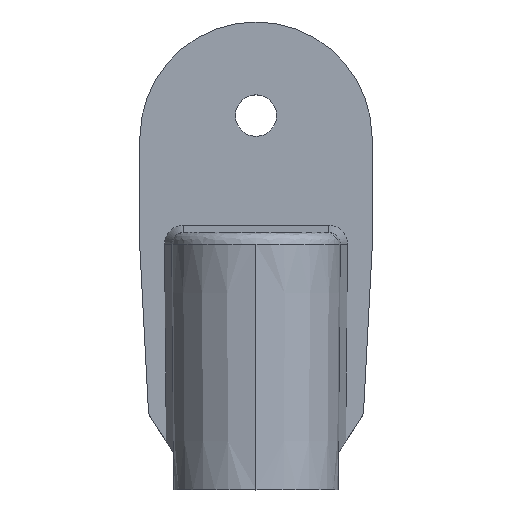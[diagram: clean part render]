
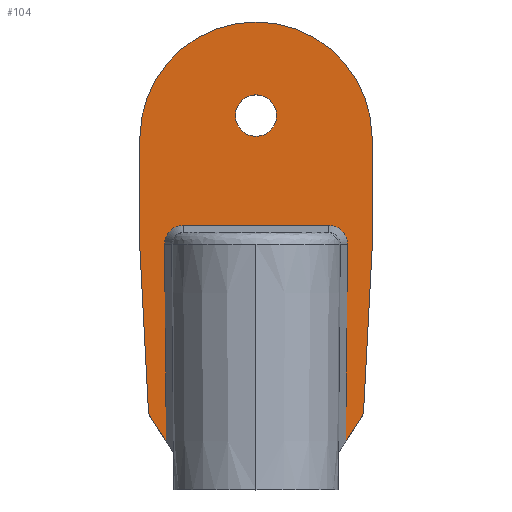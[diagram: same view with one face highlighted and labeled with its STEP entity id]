
A CAD part, top view. The second image highlights one B-rep face of the part: STEP entity #104.
In plain terms, the highlighted planar face has unit normal (0, 0, 1).
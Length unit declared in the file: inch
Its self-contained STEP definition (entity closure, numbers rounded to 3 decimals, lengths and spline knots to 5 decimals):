
#3 = ORIENTED_EDGE ( 'NONE', *, *, #971, .T. ) ;
#5 = CARTESIAN_POINT ( 'NONE',  ( -0.3739, -0.80699, -0.1 ) ) ;
#11 = ORIENTED_EDGE ( 'NONE', *, *, #450, .T. ) ;
#26 = DIRECTION ( 'NONE',  ( 0.052, 0.999, 0. ) ) ;
#34 = ORIENTED_EDGE ( 'NONE', *, *, #147, .T. ) ;
#51 = ORIENTED_EDGE ( 'NONE', *, *, #366, .T. ) ;
#58 = CARTESIAN_POINT ( 'NONE',  ( -0.35068, 0.11975, -0.1 ) ) ;
#66 = CARTESIAN_POINT ( 'NONE',  ( 0., 0.6, -0.1 ) ) ;
#87 = B_SPLINE_CURVE_WITH_KNOTS ( 'NONE', 3,
 ( #990, #739, #420, #500 ),
 .UNSPECIFIED., .F., .F.,
 ( 4, 4 ),
 ( 0., 0.0032 ),
 .UNSPECIFIED. ) ;
#90 = CARTESIAN_POINT ( 'NONE',  ( -0.506, 1.01075, -0.1 ) ) ;
#99 = VERTEX_POINT ( 'NONE', #377 ) ;
#104 = ADVANCED_FACE ( 'NONE', ( #201, #820 ), #412, .T. ) ;
#126 = VECTOR ( 'NONE', #907, 39.37008 ) ;
#129 = ORIENTED_EDGE ( 'NONE', *, *, #513, .T. ) ;
#130 = VERTEX_POINT ( 'NONE', #652 ) ;
#132 = EDGE_CURVE ( 'NONE', #291, #99, #364, .T. ) ;
#144 = CARTESIAN_POINT ( 'NONE',  ( -0.33636, 0.12647, -0.1 ) ) ;
#147 = EDGE_CURVE ( 'NONE', #468, #276, #87, .T. ) ;
#148 = VECTOR ( 'NONE', #328, 39.37008 ) ;
#152 = DIRECTION ( 'NONE',  ( 1., 0., 0. ) ) ;
#158 = CARTESIAN_POINT ( 'NONE',  ( 0.39075, 0.0493, -0.1 ) ) ;
#167 = DIRECTION ( 'NONE',  ( 0., -1., 0. ) ) ;
#168 = VECTOR ( 'NONE', #451, 39.37008 ) ;
#178 = CARTESIAN_POINT ( 'NONE',  ( 0., 0.50354, -0.1 ) ) ;
#180 = ORIENTED_EDGE ( 'NONE', *, *, #910, .T. ) ;
#184 = DIRECTION ( 'NONE',  ( 0.545, 0.839, 0. ) ) ;
#187 = CIRCLE ( 'NONE', #904, 0.0885 ) ;
#195 = CARTESIAN_POINT ( 'NONE',  ( 0.5, 0.1, -0.1 ) ) ;
#201 = FACE_BOUND ( 'NONE', #271, .T. ) ;
#208 = AXIS2_PLACEMENT_3D ( 'NONE', #178, #751, #256 ) ;
#209 = CIRCLE ( 'NONE', #414, 0.0885 ) ;
#217 = CARTESIAN_POINT ( 'NONE',  ( -0.39075, 0.0493, -0.1 ) ) ;
#221 = CARTESIAN_POINT ( 'NONE',  ( -0.32084, 0.13015, -0.1 ) ) ;
#230 = CARTESIAN_POINT ( 'NONE',  ( 0.5, 0.1, -0.1 ) ) ;
#232 = VECTOR ( 'NONE', #411, 39.37008 ) ;
#250 = ORIENTED_EDGE ( 'NONE', *, *, #892, .T. ) ;
#255 = LINE ( 'NONE', #814, #232 ) ;
#256 = DIRECTION ( 'NONE',  ( -1., 0., 0. ) ) ;
#271 = EDGE_LOOP ( 'NONE', ( #51, #129 ) ) ;
#274 = CARTESIAN_POINT ( 'NONE',  ( -0.49644, 0.50787, -0.1 ) ) ;
#276 = VERTEX_POINT ( 'NONE', #158 ) ;
#277 = VERTEX_POINT ( 'NONE', #1052 ) ;
#286 = ORIENTED_EDGE ( 'NONE', *, *, #132, .T. ) ;
#287 = ORIENTED_EDGE ( 'NONE', *, *, #631, .F. ) ;
#291 = VERTEX_POINT ( 'NONE', #567 ) ;
#296 = CARTESIAN_POINT ( 'NONE',  ( -0.39051, 0.05992, -0.1 ) ) ;
#299 = CARTESIAN_POINT ( 'NONE',  ( -0.31022, 0.13049, -0.1 ) ) ;
#301 = ORIENTED_EDGE ( 'NONE', *, *, #1061, .T. ) ;
#304 = CARTESIAN_POINT ( 'NONE',  ( 0.38341, -0.79234, -0.1 ) ) ;
#307 = DIRECTION ( 'NONE',  ( 0., 0., -1. ) ) ;
#328 = DIRECTION ( 'NONE',  ( 0.545, -0.839, 0. ) ) ;
#340 = CARTESIAN_POINT ( 'NONE',  ( 0.38685, -0.39811, -0.1 ) ) ;
#342 = EDGE_CURVE ( 'NONE', #478, #99, #255, .T. ) ;
#364 = LINE ( 'NONE', #5, #148 ) ;
#366 = EDGE_CURVE ( 'NONE', #489, #130, #209, .T. ) ;
#377 = CARTESIAN_POINT ( 'NONE',  ( -0.38341, -0.79234, -0.1 ) ) ;
#380 = LINE ( 'NONE', #195, #168 ) ;
#382 = CARTESIAN_POINT ( 'NONE',  ( -0.38696, 0.07548, -0.1 ) ) ;
#388 = CARTESIAN_POINT ( 'NONE',  ( -0.5, 0.1, -0.1 ) ) ;
#405 = VECTOR ( 'NONE', #963, 39.37008 ) ;
#411 = DIRECTION ( 'NONE',  ( 0.009, -1., 0. ) ) ;
#412 = PLANE ( 'NONE',  #698 ) ;
#414 = AXIS2_PLACEMENT_3D ( 'NONE', #801, #307, #881 ) ;
#420 = CARTESIAN_POINT ( 'NONE',  ( 0.39221, 0.09254, -0.1 ) ) ;
#422 = CARTESIAN_POINT ( 'NONE',  ( -0.49644, 0.50787, -0.1 ) ) ;
#424 = VERTEX_POINT ( 'NONE', #230 ) ;
#448 = VECTOR ( 'NONE', #26, 39.37008 ) ;
#450 = EDGE_CURVE ( 'NONE', #478, #612, #732, .T. ) ;
#451 = DIRECTION ( 'NONE',  ( -0.009, 1., 0. ) ) ;
#456 = VERTEX_POINT ( 'NONE', #388 ) ;
#468 = VERTEX_POINT ( 'NONE', #552 ) ;
#472 = CARTESIAN_POINT ( 'NONE',  ( -0.37471, 0.09908, -0.1 ) ) ;
#475 = CARTESIAN_POINT ( 'NONE',  ( 0., 0.13049, -0.1 ) ) ;
#477 = EDGE_CURVE ( 'NONE', #612, #468, #860, .T. ) ;
#478 = VERTEX_POINT ( 'NONE', #494 ) ;
#489 = VERTEX_POINT ( 'NONE', #630 ) ;
#494 = CARTESIAN_POINT ( 'NONE',  ( -0.39075, 0.0493, -0.1 ) ) ;
#500 = CARTESIAN_POINT ( 'NONE',  ( 0.39075, 0.0493, -0.1 ) ) ;
#501 = VERTEX_POINT ( 'NONE', #304 ) ;
#511 = DIRECTION ( 'NONE',  ( 0.009, 1., 0. ) ) ;
#513 = EDGE_CURVE ( 'NONE', #130, #489, #187, .T. ) ;
#543 = ORIENTED_EDGE ( 'NONE', *, *, #477, .T. ) ;
#550 = CARTESIAN_POINT ( 'NONE',  ( -0.35942, 0.11377, -0.1 ) ) ;
#552 = CARTESIAN_POINT ( 'NONE',  ( 0.31022, 0.13049, -0.1 ) ) ;
#567 = CARTESIAN_POINT ( 'NONE',  ( -0.45936, -0.67538, -0.1 ) ) ;
#584 = ORIENTED_EDGE ( 'NONE', *, *, #1043, .T. ) ;
#607 = VERTEX_POINT ( 'NONE', #750 ) ;
#612 = VERTEX_POINT ( 'NONE', #998 ) ;
#626 = CARTESIAN_POINT ( 'NONE',  ( -0.34607, 0.1223, -0.1 ) ) ;
#630 = CARTESIAN_POINT ( 'NONE',  ( 0.0885, 0.6, -0.1 ) ) ;
#631 = EDGE_CURVE ( 'NONE', #501, #276, #833, .T. ) ;
#632 = DIRECTION ( 'NONE',  ( 0., 0., -1. ) ) ;
#647 = LINE ( 'NONE', #923, #448 ) ;
#648 = DIRECTION ( 'NONE',  ( 0., 0., 1. ) ) ;
#652 = CARTESIAN_POINT ( 'NONE',  ( -0.0885, 0.6, -0.1 ) ) ;
#661 = CARTESIAN_POINT ( 'NONE',  ( -0.5, 0.1, -0.1 ) ) ;
#678 = CIRCLE ( 'NONE', #208, 0.49646 ) ;
#698 = AXIS2_PLACEMENT_3D ( 'NONE', #90, #648, #167 ) ;
#705 = CARTESIAN_POINT ( 'NONE',  ( -0.33121, 0.12809, -0.1 ) ) ;
#732 = B_SPLINE_CURVE_WITH_KNOTS ( 'NONE', 3,
 ( #217, #790, #296, #873, #382, #957, #472, #1037, #550, #58, #626, #144, #705, #221, #794, #299 ),
 .UNSPECIFIED., .F., .F.,
 ( 4, 2, 2, 2, 2, 2, 2, 4 ),
 ( 0., 0.0004, 0.00081, 0.00161, 0.00201, 0.00242, 0.00282, 0.00322 ),
 .UNSPECIFIED. ) ;
#739 = CARTESIAN_POINT ( 'NONE',  ( 0.35367, 0.13157, -0.1 ) ) ;
#741 = VECTOR ( 'NONE', #754, 39.37008 ) ;
#748 = ORIENTED_EDGE ( 'NONE', *, *, #342, .F. ) ;
#750 = CARTESIAN_POINT ( 'NONE',  ( 0.49644, 0.50787, -0.1 ) ) ;
#751 = DIRECTION ( 'NONE',  ( 0., 0., 1. ) ) ;
#754 = DIRECTION ( 'NONE',  ( 0.052, -0.999, 0. ) ) ;
#757 = CARTESIAN_POINT ( 'NONE',  ( 0.3739, -0.80699, -0.1 ) ) ;
#774 = LINE ( 'NONE', #422, #126 ) ;
#790 = CARTESIAN_POINT ( 'NONE',  ( -0.39093, 0.05465, -0.1 ) ) ;
#794 = CARTESIAN_POINT ( 'NONE',  ( -0.31558, 0.13062, -0.1 ) ) ;
#801 = CARTESIAN_POINT ( 'NONE',  ( 0., 0.6, -0.1 ) ) ;
#814 = CARTESIAN_POINT ( 'NONE',  ( -0.38689, -0.39364, -0.1 ) ) ;
#820 = FACE_OUTER_BOUND ( 'NONE', #1039, .T. ) ;
#823 = ORIENTED_EDGE ( 'NONE', *, *, #857, .T. ) ;
#833 = LINE ( 'NONE', #340, #1029 ) ;
#857 = EDGE_CURVE ( 'NONE', #501, #277, #896, .T. ) ;
#860 = LINE ( 'NONE', #475, #405 ) ;
#867 = VECTOR ( 'NONE', #184, 39.37008 ) ;
#873 = CARTESIAN_POINT ( 'NONE',  ( -0.38853, 0.07032, -0.1 ) ) ;
#881 = DIRECTION ( 'NONE',  ( 1., 0., 0. ) ) ;
#892 = EDGE_CURVE ( 'NONE', #277, #424, #647, .T. ) ;
#896 = LINE ( 'NONE', #757, #867 ) ;
#904 = AXIS2_PLACEMENT_3D ( 'NONE', #66, #632, #152 ) ;
#907 = DIRECTION ( 'NONE',  ( -0.009, -1., 0. ) ) ;
#910 = EDGE_CURVE ( 'NONE', #607, #948, #678, .T. ) ;
#923 = CARTESIAN_POINT ( 'NONE',  ( 0.45936, -0.67538, -0.1 ) ) ;
#948 = VERTEX_POINT ( 'NONE', #274 ) ;
#957 = CARTESIAN_POINT ( 'NONE',  ( -0.38082, 0.09011, -0.1 ) ) ;
#962 = LINE ( 'NONE', #661, #741 ) ;
#963 = DIRECTION ( 'NONE',  ( 1., 0., 0. ) ) ;
#971 = EDGE_CURVE ( 'NONE', #424, #607, #380, .T. ) ;
#990 = CARTESIAN_POINT ( 'NONE',  ( 0.31022, 0.13049, -0.1 ) ) ;
#998 = CARTESIAN_POINT ( 'NONE',  ( -0.31022, 0.13049, -0.1 ) ) ;
#1029 = VECTOR ( 'NONE', #511, 39.37008 ) ;
#1037 = CARTESIAN_POINT ( 'NONE',  ( -0.36355, 0.11032, -0.1 ) ) ;
#1039 = EDGE_LOOP ( 'NONE', ( #11, #543, #34, #287, #823, #250, #3, #180, #584, #301, #286, #748 ) ) ;
#1043 = EDGE_CURVE ( 'NONE', #948, #456, #774, .T. ) ;
#1052 = CARTESIAN_POINT ( 'NONE',  ( 0.45936, -0.67538, -0.1 ) ) ;
#1061 = EDGE_CURVE ( 'NONE', #456, #291, #962, .T. ) ;
